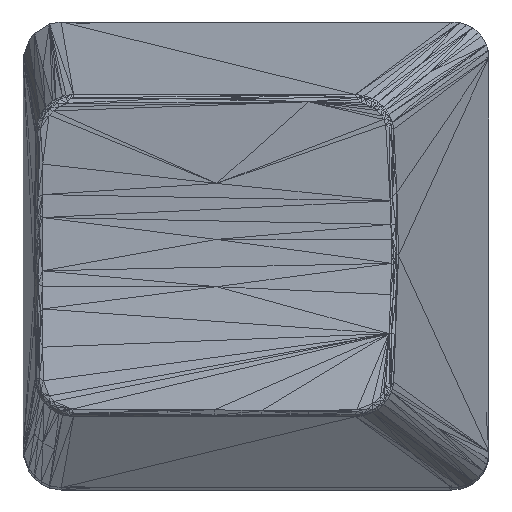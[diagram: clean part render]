
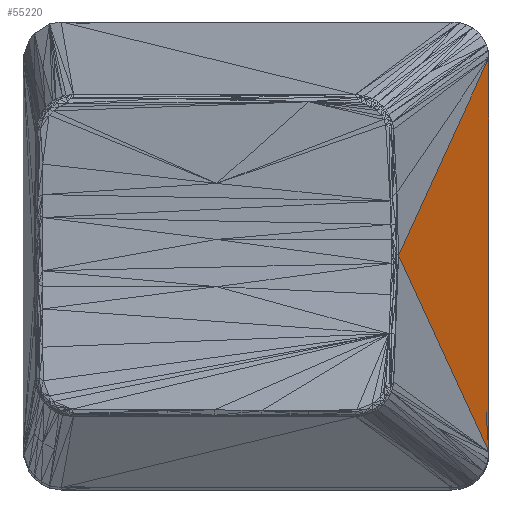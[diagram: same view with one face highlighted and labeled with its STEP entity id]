
A CAD part, top view. The second image highlights one B-rep face of the part: STEP entity #55220.
In plain terms, the highlighted planar face has unit normal (0.925, 0, 0.379).
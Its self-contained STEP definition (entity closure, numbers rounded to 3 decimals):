
#52340 = VERTEX_POINT('',#52341);
#52341 = CARTESIAN_POINT('',(18.1,1.395,
    53.));
#52640 = VERTEX_POINT('',#52641);
#52641 = CARTESIAN_POINT('',(14.589,9.004,61.564
    ));
#52755 = VERTEX_POINT('',#52756);
#52756 = CARTESIAN_POINT('',(18.1,16.703,
    53.));
#52887 = PLANE('',#52888);
#52888 = AXIS2_PLACEMENT_3D('',#52889,#52890,#52891);
#52889 = CARTESIAN_POINT('',(18.1,16.703,
    53.));
#52890 = DIRECTION('',(0.925,0.,0.379)
  );
#52891 = DIRECTION('',(-0.331,-0.486,0.808));
#52924 = EDGE_CURVE('',#52640,#52755,#52925,.T.);
#52925 = SURFACE_CURVE('',#52926,(#52930,#52937),.PCURVE_S1.);
#52926 = LINE('',#52927,#52928);
#52927 = CARTESIAN_POINT('',(14.589,9.004,61.564
    ));
#52928 = VECTOR('',#52929,1.);
#52929 = DIRECTION('',(0.292,0.639,-0.711));
#52930 = PCURVE('',#52887,#52931);
#52931 = DEFINITIONAL_REPRESENTATION('',(#52932),#52936);
#52932 = LINE('',#52933,#52934);
#52933 = CARTESIAN_POINT('',(11.832,2.224));
#52934 = VECTOR('',#52935,1.);
#52935 = DIRECTION('',(-0.983,-0.185));
#52936 = ( GEOMETRIC_REPRESENTATION_CONTEXT(2) 
PARAMETRIC_REPRESENTATION_CONTEXT() REPRESENTATION_CONTEXT('2D SPACE',''
  ) );
#52937 = PCURVE('',#52938,#52943);
#52938 = PLANE('',#52939);
#52939 = AXIS2_PLACEMENT_3D('',#52940,#52941,#52942);
#52940 = CARTESIAN_POINT('',(14.589,9.004,61.564
    ));
#52941 = DIRECTION('',(0.925,0.,0.379));
#52942 = DIRECTION('',(0.293,-0.635,-0.715));
#52943 = DEFINITIONAL_REPRESENTATION('',(#52944),#52948);
#52944 = LINE('',#52945,#52946);
#52945 = CARTESIAN_POINT('',(0.,0.));
#52946 = VECTOR('',#52947,1.);
#52947 = DIRECTION('',(0.188,0.982));
#52948 = ( GEOMETRIC_REPRESENTATION_CONTEXT(2) 
PARAMETRIC_REPRESENTATION_CONTEXT() REPRESENTATION_CONTEXT('2D SPACE',''
  ) );
#54088 = PLANE('',#54089);
#54089 = AXIS2_PLACEMENT_3D('',#54090,#54091,#54092);
#54090 = CARTESIAN_POINT('',(18.1,1.395,
    53.));
#54091 = DIRECTION('',(0.925,0.,0.379
    ));
#54092 = DIRECTION('',(-0.293,0.635,0.715));
#55220 = ADVANCED_FACE('',(#55221),#52938,.T.);
#55221 = FACE_BOUND('',#55222,.T.);
#55222 = EDGE_LOOP('',(#55223,#55244,#55270));
#55223 = ORIENTED_EDGE('',*,*,#55224,.F.);
#55224 = EDGE_CURVE('',#52340,#52640,#55225,.T.);
#55225 = SURFACE_CURVE('',#55226,(#55230,#55237),.PCURVE_S1.);
#55226 = LINE('',#55227,#55228);
#55227 = CARTESIAN_POINT('',(14.589,9.004,61.564
    ));
#55228 = VECTOR('',#55229,1.);
#55229 = DIRECTION('',(-0.293,0.635,0.715));
#55230 = PCURVE('',#52938,#55231);
#55231 = DEFINITIONAL_REPRESENTATION('',(#55232),#55236);
#55232 = LINE('',#55233,#55234);
#55233 = CARTESIAN_POINT('',(0.,0.));
#55234 = VECTOR('',#55235,1.);
#55235 = DIRECTION('',(-1.,0.));
#55236 = ( GEOMETRIC_REPRESENTATION_CONTEXT(2) 
PARAMETRIC_REPRESENTATION_CONTEXT() REPRESENTATION_CONTEXT('2D SPACE',''
  ) );
#55237 = PCURVE('',#54088,#55238);
#55238 = DEFINITIONAL_REPRESENTATION('',(#55239),#55243);
#55239 = LINE('',#55240,#55241);
#55240 = CARTESIAN_POINT('',(11.982,0.));
#55241 = VECTOR('',#55242,1.);
#55242 = DIRECTION('',(1.,0.));
#55243 = ( GEOMETRIC_REPRESENTATION_CONTEXT(2) 
PARAMETRIC_REPRESENTATION_CONTEXT() REPRESENTATION_CONTEXT('2D SPACE',''
  ) );
#55244 = ORIENTED_EDGE('',*,*,#55245,.T.);
#55245 = EDGE_CURVE('',#52340,#52755,#55246,.T.);
#55246 = SURFACE_CURVE('',#55247,(#55251,#55258),.PCURVE_S1.);
#55247 = LINE('',#55248,#55249);
#55248 = CARTESIAN_POINT('',(18.1,1.395,
    53.));
#55249 = VECTOR('',#55250,1.);
#55250 = DIRECTION('',(0.,1.,0.));
#55251 = PCURVE('',#52938,#55252);
#55252 = DEFINITIONAL_REPRESENTATION('',(#55253),#55257);
#55253 = LINE('',#55254,#55255);
#55254 = CARTESIAN_POINT('',(11.982,0.));
#55255 = VECTOR('',#55256,1.);
#55256 = DIRECTION('',(-0.635,0.772));
#55257 = ( GEOMETRIC_REPRESENTATION_CONTEXT(2) 
PARAMETRIC_REPRESENTATION_CONTEXT() REPRESENTATION_CONTEXT('2D SPACE',''
  ) );
#55258 = PCURVE('',#55259,#55264);
#55259 = PLANE('',#55260);
#55260 = AXIS2_PLACEMENT_3D('',#55261,#55262,#55263);
#55261 = CARTESIAN_POINT('',(18.1,16.703,
    53.));
#55262 = DIRECTION('',(-0.,-0.,-1.));
#55263 = DIRECTION('',(0.,-1.,0.));
#55264 = DEFINITIONAL_REPRESENTATION('',(#55265),#55269);
#55265 = LINE('',#55266,#55267);
#55266 = CARTESIAN_POINT('',(15.308,0.));
#55267 = VECTOR('',#55268,1.);
#55268 = DIRECTION('',(-1.,0.));
#55269 = ( GEOMETRIC_REPRESENTATION_CONTEXT(2) 
PARAMETRIC_REPRESENTATION_CONTEXT() REPRESENTATION_CONTEXT('2D SPACE',''
  ) );
#55270 = ORIENTED_EDGE('',*,*,#52924,.F.);
